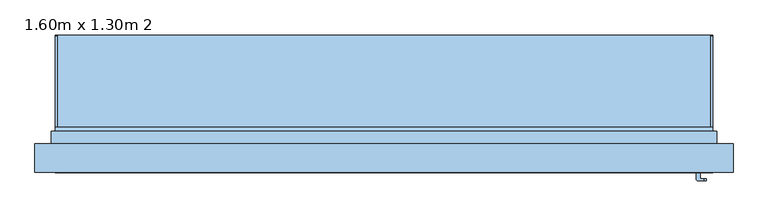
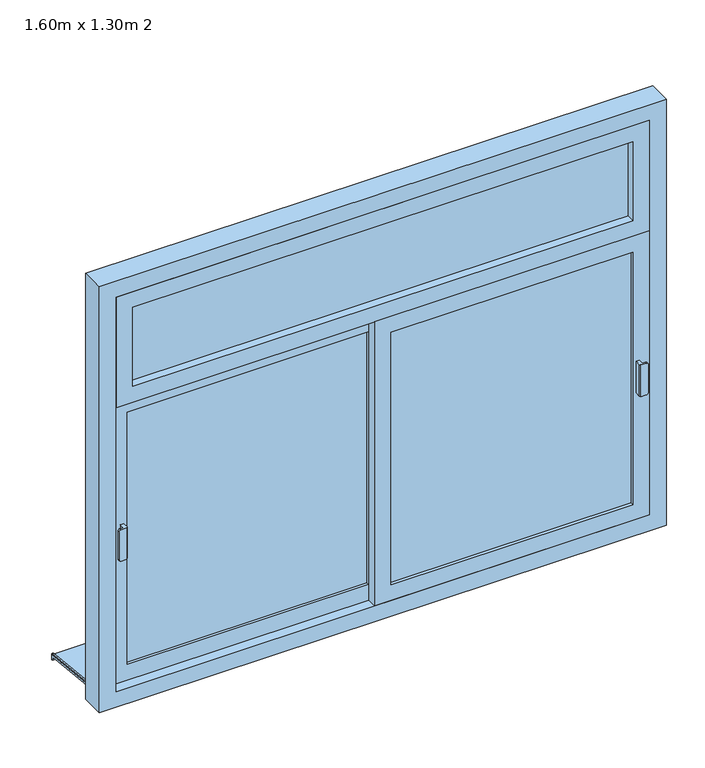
"""IFC4 building model written with IfcOpenShell, lengths in millimetres: window geometry, 2 Vantaux coul. - Imposte haute : 1.60m x 1.30m 2."""

from ifc_helpers import new_model, si_unit, point, frame, frame_2d, origin, place, context, project, spatial, polyline, circle_curve, trimmed, segment, composite_curve, outline, extrude, faceted_brep, source, transform, mapped, element, save
from ifc_brep_helpers import plane_surface, cylinder_surface, advanced_brep


def window_1_60m_x_1_30m_2_6cf8705b(model_context):
    return source(origin(), model_context, "Body", "SolidModel", [
        advanced_brep(
        [(-760.0, -147.5313182, 1250.0), (-762.4686818, -150.0, 1250.0), (-779.0477825, -150.0, 1250.0), (-779.0477825, -145.0, 1250.0), (-770.0, -145.0, 1250.0), (-770.0, -130.0, 1250.0), (-760.0, -130.0, 1250.0), (-760.0, -147.5313182, 1350.0), (-760.0, -130.0, 1350.0), (-770.0, -130.0, 1350.0), (-770.0, -145.0, 1350.0), (-779.0477825, -145.0, 1350.0), (-779.0477825, -150.0, 1350.0), (-762.4686818, -150.0, 1350.0), (-785.0, -145.0, 1255.9522175), (-785.0, -145.0, 1344.0477825), (-785.0, -150.0, 1255.9522175), (-785.0, -150.0, 1344.0477825)],
        [
            (0, 1),
            (1, 2),
            (2, 3),
            (3, 4),
            (4, 5),
            (5, 6),
            (6, 0),
            (7, 8),
            (8, 9),
            (9, 10),
            (10, 11),
            (11, 12),
            (12, 13),
            (13, 7),
            (6, 8),
            (7, 0),
            (5, 9),
            (4, 10),
            (3, 14, circle_curve(frame((-779.0477825, -145.0, 1255.9522175), z_axis=(0.0, 1.0, 0.0), x_axis=(-1.0, 0.0, 0.0)), 5.9522175)),
            (14, 15),
            (15, 11, circle_curve(frame((-779.0477825, -145.0, 1344.0477825), z_axis=(0.0, 1.0, 0.0), x_axis=(-1.0, 0.0, 0.0)), 5.9522175)),
            (14, 16),
            (16, 17),
            (17, 15),
            (12, 17, circle_curve(frame((-779.0477825, -150.0, 1344.0477825), z_axis=(0.0, -1.0, 0.0), x_axis=(-1.0, 0.0, 0.0)), 5.9522175)),
            (16, 2, circle_curve(frame((-779.0477825, -150.0, 1255.9522175), z_axis=(0.0, -1.0, 0.0), x_axis=(-1.0, 0.0, 0.0)), 5.9522175)),
            (1, 13),
        ],
        [
            plane_surface(frame((-760.0, -130.0, 1250.0), z_axis=(0.0, 0.0, -1.0), x_axis=(0.0, 1.0, 0.0))),
            plane_surface(frame((-760.0, -130.0, 1350.0), z_axis=(0.0, 0.0, 1.0), x_axis=(0.0, -1.0, 0.0))),
            plane_surface(frame((-760.0, -147.5313182, 1250.0), z_axis=(1.0, 0.0, 0.0), x_axis=(0.0, 0.0, 1.0))),
            plane_surface(frame((-760.0, -130.0, 1250.0), z_axis=(0.0, 1.0, 0.0), x_axis=(0.0, 0.0, 1.0))),
            plane_surface(frame((-770.0, -130.0, 1250.0), z_axis=(-1.0, 0.0, 0.0), x_axis=(0.0, 0.0, 1.0))),
            plane_surface(frame((-770.0, -145.0, 1250.0), z_axis=(0.0, 1.0, 0.0), x_axis=(0.0, 0.0, 1.0))),
            plane_surface(frame((-785.0, -145.0, 1250.0), z_axis=(-1.0, 0.0, 0.0), x_axis=(0.0, 0.0, 1.0))),
            plane_surface(frame((-785.0, -150.0, 1250.0), z_axis=(0.0, -1.0, 0.0), x_axis=(0.0, 0.0, 1.0))),
            plane_surface(frame((-762.4686818, -150.0, 1250.0), z_axis=(0.7071067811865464, -0.7071067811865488, 0.0), x_axis=(0.0, 0.0, 1.0))),
            cylinder_surface(frame((-779.0477825, -145.0, 1344.0477825), z_axis=(0.0, 1.0, 0.0), x_axis=(-1.0, 0.0, 0.0)), 5.9522175),
            cylinder_surface(frame((-779.0477825, -145.0, 1255.9522175), z_axis=(0.0, 1.0, 0.0), x_axis=(-1.0, 0.0, 0.0)), 5.9522175),
        ],
        [
            (0, [[1, 2, 3, 4, 5, 6, 7]]),
            (1, [[8, 9, 10, 11, 12, 13, 14]]),
            (2, [[15, -8, 16, -7]]),
            (3, [[17, -9, -15, -6]]),
            (4, [[18, -10, -17, -5]]),
            (5, [[-4, 19, 20, 21, -11, -18]]),
            (6, [[22, 23, 24, -20]]),
            (7, [[-13, 25, -23, 26, -2, 27]]),
            (8, [[-16, -14, -27, -1]]),
            (9, [[-21, -24, -25, -12]]),
            (10, [[-26, -22, -19, -3]]),
        ],
    ),
        advanced_brep(
        [(760.0, -177.5313182, 1250.0), (760.0, -160.0, 1250.0), (770.0, -160.0, 1250.0), (770.0, -175.0, 1250.0), (779.0477825, -175.0, 1250.0), (779.0477825, -180.0, 1250.0), (762.4686818, -180.0, 1250.0), (760.0, -177.5313182, 1350.0), (762.4686818, -180.0, 1350.0), (779.0477825, -180.0, 1350.0), (779.0477825, -175.0, 1350.0), (770.0, -175.0, 1350.0), (770.0, -160.0, 1350.0), (760.0, -160.0, 1350.0), (785.0, -175.0, 1344.0477825), (785.0, -175.0, 1255.9522175), (785.0, -180.0, 1344.0477825), (785.0, -180.0, 1255.9522175)],
        [
            (0, 1),
            (1, 2),
            (2, 3),
            (3, 4),
            (4, 5),
            (5, 6),
            (6, 0),
            (7, 8),
            (8, 9),
            (9, 10),
            (10, 11),
            (11, 12),
            (12, 13),
            (13, 7),
            (0, 7),
            (13, 1),
            (12, 2),
            (11, 3),
            (10, 14, circle_curve(frame((779.0477825, -175.0, 1344.0477825), z_axis=(0.0, 1.0, 0.0), x_axis=(1.0, 0.0, 0.0)), 5.9522175)),
            (14, 15),
            (15, 4, circle_curve(frame((779.0477825, -175.0, 1255.9522175), z_axis=(0.0, 1.0, 0.0), x_axis=(1.0, 0.0, 0.0)), 5.9522175)),
            (14, 16),
            (16, 17),
            (17, 15),
            (8, 6),
            (5, 17, circle_curve(frame((779.0477825, -180.0, 1255.9522175), z_axis=(0.0, -1.0, 0.0), x_axis=(1.0, 0.0, 0.0)), 5.9522175)),
            (16, 9, circle_curve(frame((779.0477825, -180.0, 1344.0477825), z_axis=(0.0, -1.0, 0.0), x_axis=(1.0, 0.0, 0.0)), 5.9522175)),
        ],
        [
            plane_surface(frame((760.0, -160.0, 1250.0), z_axis=(0.0, 0.0, -1.0), x_axis=(0.0, 1.0, 0.0))),
            plane_surface(frame((760.0, -160.0, 1350.0), z_axis=(0.0, 0.0, 1.0), x_axis=(0.0, -1.0, 0.0))),
            plane_surface(frame((760.0, -177.5313182, 1250.0), z_axis=(-1.0, 0.0, 0.0), x_axis=(0.0, 0.0, 1.0))),
            plane_surface(frame((760.0, -160.0, 1250.0), z_axis=(0.0, 1.0, 0.0), x_axis=(0.0, 0.0, 1.0))),
            plane_surface(frame((770.0, -160.0, 1250.0), z_axis=(1.0, 0.0, 0.0), x_axis=(0.0, 0.0, 1.0))),
            plane_surface(frame((770.0, -175.0, 1250.0), z_axis=(0.0, 1.0, 0.0), x_axis=(0.0, 0.0, 1.0))),
            plane_surface(frame((785.0, -175.0, 1250.0), z_axis=(1.0, 0.0, 0.0), x_axis=(0.0, 0.0, 1.0))),
            plane_surface(frame((785.0, -180.0, 1250.0), z_axis=(0.0, -1.0, 0.0), x_axis=(0.0, 0.0, 1.0))),
            plane_surface(frame((762.4686818, -180.0, 1250.0), z_axis=(-0.7071067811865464, -0.7071067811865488, 0.0), x_axis=(0.0, 0.0, 1.0))),
            cylinder_surface(frame((779.0477825, -175.0, 1344.0477825), z_axis=(0.0, 1.0, 0.0), x_axis=(1.0, 0.0, 0.0)), 5.9522175),
            cylinder_surface(frame((779.0477825, -175.0, 1255.9522175), z_axis=(0.0, 1.0, 0.0), x_axis=(1.0, 0.0, 0.0)), 5.9522175),
        ],
        [
            (0, [[1, 2, 3, 4, 5, 6, 7]]),
            (1, [[8, 9, 10, 11, 12, 13, 14]]),
            (2, [[-1, 15, -14, 16]]),
            (3, [[-2, -16, -13, 17]]),
            (4, [[-3, -17, -12, 18]]),
            (5, [[-18, -11, 19, 20, 21, -4]]),
            (6, [[-20, 22, 23, 24]]),
            (7, [[25, -6, 26, -23, 27, -9]]),
            (8, [[-7, -25, -8, -15]]),
            (9, [[-10, -27, -22, -19]]),
            (10, [[-5, -21, -24, -26]]),
        ],
    ),
        extrude(outline(polyline([(175.0, 763.4536318), (175.0, 747.8979153), (170.0, 748.4234365), (170.0, 758.7239412), (-80.0, 785.0), (-80.0, 800.0), (-75.0, 800.0), (-75.0, 789.7296906), (175.0, 763.4536318)])), frame((-800.0, 0.0, 0.0), z_axis=(1.0, 0.0, 0.0), x_axis=(0.0, 1.0, 0.0)), (0.0, 0.0, 1.0), 1600.0),
        extrude(outline(composite_curve([segment(polyline([(175.0, 763.4536318), (-75.0, 789.7296906), (-75.0, 794.757232), (171.4181139, 768.8576446)]), True, "CONTINUOUS"), segment(trimmed(circle_curve(frame_2d((171.0, 764.879557)), 4.0), [point((171.4181139, 768.8576446))], [point((175.0, 764.879557))], False, "CARTESIAN"), True, "CONTINUOUS"), segment(polyline([(175.0, 764.879557), (175.0, 763.4536318)]), True, "CONTINUOUS")], self_intersect=False)), frame((-800.0, 0.0, 0.0), z_axis=(1.0, 0.0, 0.0), x_axis=(0.0, 1.0, 0.0)), (0.0, 0.0, 1.0), 5.0),
        extrude(outline(composite_curve([segment(polyline([(175.0, 763.4536318), (-75.0, 789.7296906), (-75.0, 794.757232), (171.4181139, 768.8576446)]), True, "CONTINUOUS"), segment(trimmed(circle_curve(frame_2d((171.0, 764.879557)), 4.0), [point((171.4181139, 768.8576446))], [point((175.0, 764.879557))], False, "CARTESIAN"), True, "CONTINUOUS"), segment(polyline([(175.0, 764.879557), (175.0, 763.4536318)]), True, "CONTINUOUS")], self_intersect=False)), frame((795.0, 0.0, 0.0), z_axis=(1.0, 0.0, 0.0), x_axis=(0.0, 1.0, 0.0)), (0.0, 0.0, 1.0), 5.0),
        extrude(outline(polyline([(-750.0, -109.0), (-25.0, -109.0), (-25.0, -121.0), (-750.0, -121.0), (-750.0, -109.0)])), frame((0.0, 0.0, 900.0), z_axis=(0.0, 0.0, 1.0), x_axis=(1.0, 0.0, 0.0)), (0.0, 0.0, 1.0), 800.0),
        extrude(outline(polyline([(850.0, 25.0), (1750.0, 25.0), (1750.0, -800.0), (850.0, -800.0), (850.0, 25.0)]), holes=[polyline([(900.0, -750.0), (1700.0, -750.0), (1700.0, -25.0), (900.0, -25.0), (900.0, -750.0)])]), frame((0.0, -130.0, 0.0), z_axis=(0.0, 1.0, 0.0), x_axis=(0.0, 0.0, 1.0)), (0.0, 0.0, 1.0), 30.0),
        extrude(outline(polyline([(25.0, -139.0), (750.0, -139.0), (750.0, -151.0), (25.0, -151.0), (25.0, -139.0)])), frame((0.0, 0.0, 900.0), z_axis=(0.0, 0.0, 1.0), x_axis=(1.0, 0.0, 0.0)), (0.0, 0.0, 1.0), 800.0),
        extrude(outline(polyline([(850.0, 800.0), (1750.0, 800.0), (1750.0, -25.0), (850.0, -25.0), (850.0, 800.0)]), holes=[polyline([(900.0, 25.0), (1700.0, 25.0), (1700.0, 750.0), (900.0, 750.0), (900.0, 25.0)])]), frame((0.0, -160.0, 0.0), z_axis=(0.0, 1.0, 0.0), x_axis=(0.0, 0.0, 1.0)), (0.0, 0.0, 1.0), 30.0),
        faceted_brep([(-850.0, -160.0, 800.0), (-850.0, -90.0, 800.0), (-800.0, -90.0, 800.0), (-800.0, -60.0, 800.0), (800.0, -60.0, 800.0), (800.0, -90.0, 800.0), (850.0, -90.0, 800.0), (850.0, -160.0, 800.0), (-850.0, -160.0, 2150.0), (-850.0, -90.0, 2150.0), (850.0, -90.0, 2150.0), (800.0, -90.0, 839.3761425), (-800.0, -90.0, 839.3761425), (-785.0, -90.0, 2085.0), (-785.0, -90.0, 865.0), (785.0, -90.0, 865.0), (785.0, -90.0, 2085.0), (-800.0, -50.0, 828.6581748), (-800.0, -50.0, 795.0), (-800.0, -60.0, 795.0), (800.0, -60.0, 795.0), (800.0, -50.0, 795.0), (800.0, -50.0, 828.6581748), (850.0, -160.0, 2150.0), (800.0, -160.0, 2100.0), (800.0, -160.0, 850.0), (-800.0, -160.0, 850.0), (-800.0, -160.0, 2100.0), (-785.0, -100.0, 2085.0), (-785.0, -100.0, 865.0), (785.0, -100.0, 865.0), (785.0, -100.0, 2085.0), (800.0, -100.0, 2100.0), (-800.0, -100.0, 2100.0), (-800.0, -100.0, 850.0), (800.0, -100.0, 850.0)], [[[0, 1, 2, 3, 4, 5, 6, 7]], [[1, 0, 8, 9]], [[1, 9, 10, 6, 5, 11, 12, 2], [13, 14, 15, 16]], [[12, 17, 18, 19, 3, 2]], [[3, 19, 20, 4]], [[4, 20, 21, 22, 11, 5]], [[6, 10, 23, 7]], [[0, 7, 23, 8], [24, 25, 26, 27]], [[13, 28, 29, 14]], [[29, 30, 15, 14]], [[31, 16, 15, 30]], [[17, 12, 11, 22]], [[32, 33, 34, 35], [28, 31, 30, 29]], [[34, 33, 27, 26]], [[26, 25, 35, 34]], [[24, 32, 35, 25]], [[18, 17, 22, 21]], [[19, 18, 21, 20]], [[13, 16, 31, 28]], [[33, 32, 24, 27]], [[10, 9, 8, 23]]]),
        extrude(outline(polyline([(800.0, -810.0), (800.0, -800.0), (2100.0, -800.0), (2100.0, 800.0), (800.0, 800.0), (800.0, 810.0), (2110.0, 810.0), (2110.0, -810.0), (800.0, -810.0)])), frame((0.0, -90.0, 0.0), z_axis=(0.0, 1.0, 0.0), x_axis=(0.0, 0.0, 1.0)), (0.0, 0.0, 1.0), 30.0),
        extrude(outline(polyline([(1750.0, -800.0), (1750.0, 800.0), (2100.0, 800.0), (2100.0, -800.0), (1750.0, -800.0)]), holes=[polyline([(2050.0, -750.0), (2050.0, 750.0), (1800.0, 750.0), (1800.0, -750.0), (2050.0, -750.0)])]), frame((0.0, -160.0, 0.0), z_axis=(0.0, 1.0, 0.0), x_axis=(0.0, 0.0, 1.0)), (0.0, 0.0, 1.0), 60.0),
        extrude(outline(polyline([(-750.0, -124.0), (750.0, -124.0), (750.0, -136.0), (-750.0, -136.0), (-750.0, -124.0)])), frame((0.0, 0.0, 1800.0), z_axis=(0.0, 0.0, 1.0), x_axis=(1.0, 0.0, 0.0)), (0.0, 0.0, 1.0), 250.0),
    ])


if __name__ == "__main__":
    model = new_model("IFC4")
    model_context = context("Model", 3, world=origin())
    ifc_project = project(units=[si_unit("LENGTHUNIT", "METRE", prefix="MILLI")], contexts=[model_context])
    site = spatial("IfcSite", under=ifc_project)
    building = spatial("IfcBuilding", under=site)
    placement = place(None, origin())
    window_1_60m_x_1_30m_2_shape = window_1_60m_x_1_30m_2_6cf8705b(model_context)
    element("IfcWindow", 1, ObjectType="2 Vantaux coul. - Imposte haute : 1.60m x 1.30m 2", at=placement, inside=building, context=model_context, shape_type="MappedRepresentation", body=[
        mapped(window_1_60m_x_1_30m_2_shape, transform((0.0, 0.0, 0.0), x_axis=(1.0, 0.0, 0.0), y_axis=(0.0, 1.0, 0.0), z_axis=(0.0, 0.0, 1.0))),
    ])
    save(model, "model.ifc")
